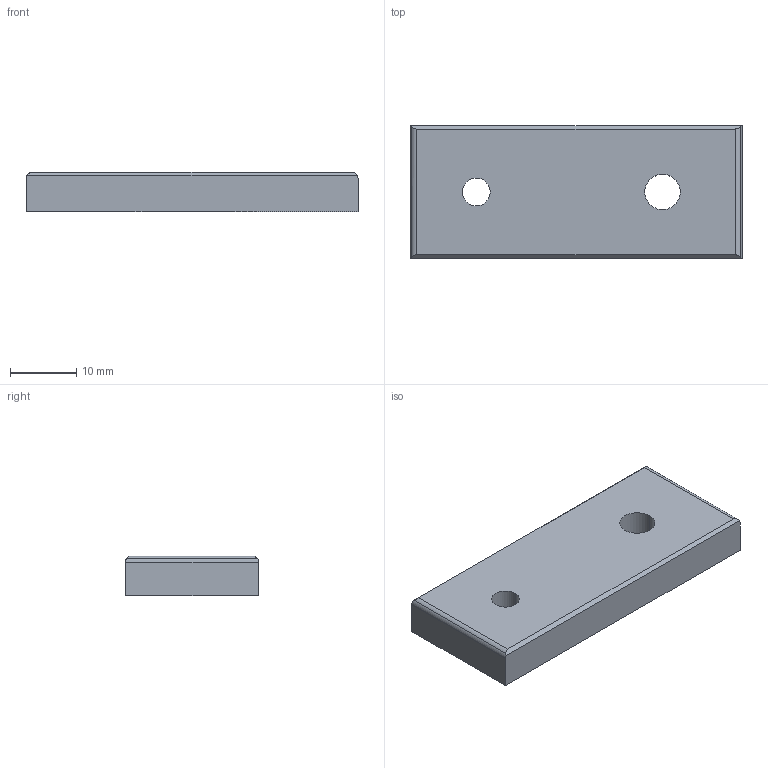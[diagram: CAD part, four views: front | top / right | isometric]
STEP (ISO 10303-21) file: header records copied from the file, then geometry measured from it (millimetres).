
FILE_DESCRIPTION(('Export aus Autodesk Inventor R6 mit Gewinde und Toleranzangaben im Originalbauteil'),'2;1');
FILE_NAME('C:\Projekte\Arbeitsbereich\toleranz-ap214.stp','2003-07-31T08:36:45',('Robby Lampe'),(''),'Autodesk Inventor (R) 6.0','Autodesk Inventor (R) 6.0','');
FILE_SCHEMA(('AUTOMOTIVE_DESIGN { 1 0 10303 214 1 1 1 1 }'));
Length unit declared in the file: millimetre
Products named in the file (1): toleranz
Bounding box: 50.1 x 20 x 6 mm (x, y, z)
Volume: 5773.2 mm3; surface area: 2905.5 mm2
Topology: 1 solids, 1 shells, 16 faces, 42 edges, 28 vertices
Faces by surface type: plane 8, bspline 4, cylinder 4
Entity records: 589 total; most frequent: CARTESIAN_POINT 155, DIRECTION 88, ORIENTED_EDGE 84, EDGE_CURVE 42, AXIS2_PLACEMENT_3D 33, VERTEX_POINT 28, VECTOR 22, LINE 22
